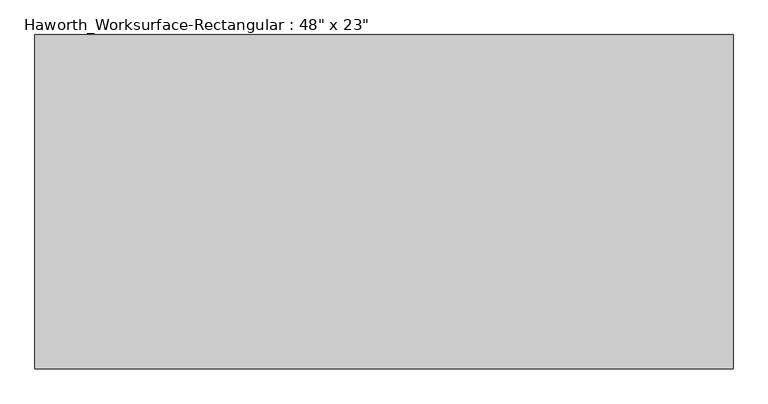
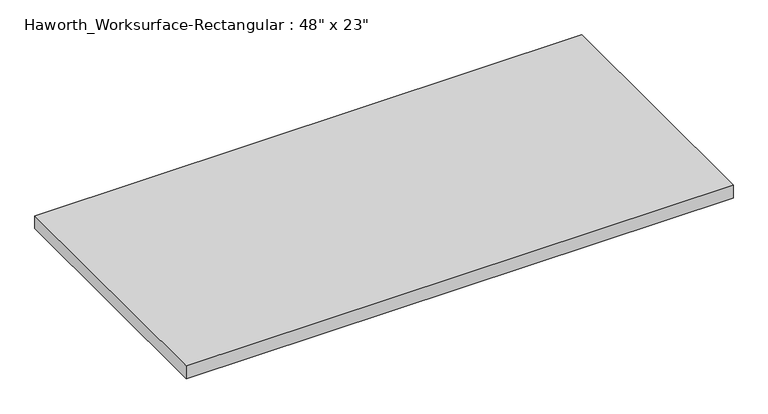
"""IFC4 building model written with IfcOpenShell, lengths in millimetres: furniture geometry."""

from ifc_helpers import new_model, si_unit, frame, origin, place, context, project, spatial, polyline, outline, extrude, source, transform, mapped, element, save


def furniture_8de63019(model_context):
    return source(origin(), model_context, "Body", "SweptSolid", [
        extrude(outline(polyline([(609.6, 292.1), (609.6, -292.1), (-609.6, -292.1), (-609.6, 292.1), (609.6, 292.1)])), frame((0.0, 0.0, 706.4375), z_axis=(0.0, 0.0, 1.0), x_axis=(1.0, 0.0, 0.0)), (0.0, 0.0, 1.0), 30.1625),
    ])


if __name__ == "__main__":
    model = new_model("IFC4")
    model_context = context("Model", 3, world=origin())
    ifc_project = project(units=[si_unit("LENGTHUNIT", "METRE", prefix="MILLI")], contexts=[model_context])
    site = spatial("IfcSite", under=ifc_project)
    building = spatial("IfcBuilding", under=site)
    placement = place(None, origin())
    furniture_shape = furniture_8de63019(model_context)
    element("IfcFurniture", 1, ObjectType="Haworth_Worksurface-Rectangular : 48\" x 23\"", at=placement, inside=building, context=model_context, shape_type="MappedRepresentation", body=[
        mapped(furniture_shape, transform((0.0, 0.0, 0.0), x_axis=(1.0, 0.0, 0.0), y_axis=(0.0, 1.0, 0.0), z_axis=(0.0, 0.0, 1.0))),
    ])
    save(model, "model.ifc")
